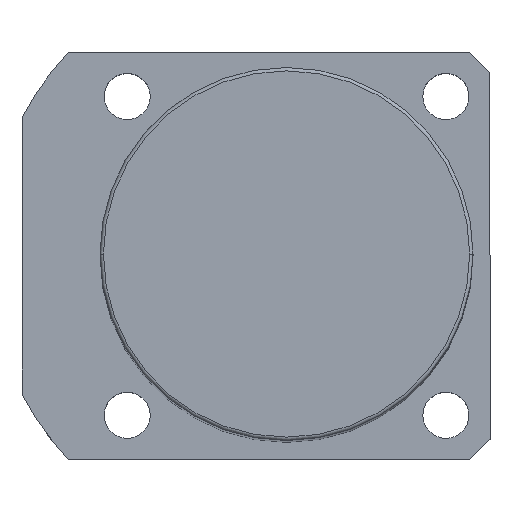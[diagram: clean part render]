
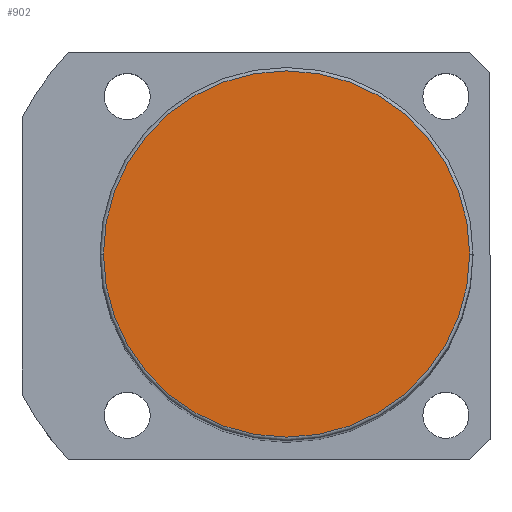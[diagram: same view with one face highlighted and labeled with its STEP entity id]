
A CAD part, top view. The second image highlights one B-rep face of the part: STEP entity #902.
In plain terms, the highlighted planar face has unit normal (0, 0, 1).
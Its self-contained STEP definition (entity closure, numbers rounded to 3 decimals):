
#507 = CARTESIAN_POINT ( 'NONE',  ( 0., 0., 166. ) ) ;
#550 = DIRECTION ( 'NONE',  ( 0., 0., 1. ) ) ;
#711 = CARTESIAN_POINT ( 'NONE',  ( 0., 0., 166. ) ) ;
#722 = VERTEX_POINT ( 'NONE', #1396 ) ;
#902 = ADVANCED_FACE ( 'NONE', ( #2912 ), #4880, .T. ) ;
#955 = DIRECTION ( 'NONE',  ( 0., 0., 1. ) ) ;
#959 = EDGE_CURVE ( 'NONE', #2653, #722, #1478, .T. ) ;
#1116 = DIRECTION ( 'NONE',  ( 1., 0., 0. ) ) ;
#1304 = AXIS2_PLACEMENT_3D ( 'NONE', #2676, #955, #2098 ) ;
#1396 = CARTESIAN_POINT ( 'NONE',  ( -27., 0., 166. ) ) ;
#1478 = CIRCLE ( 'NONE', #1304, 27. ) ;
#1550 = AXIS2_PLACEMENT_3D ( 'NONE', #711, #3482, #1116 ) ;
#1755 = EDGE_LOOP ( 'NONE', ( #1922, #3178 ) ) ;
#1922 = ORIENTED_EDGE ( 'NONE', *, *, #959, .T. ) ;
#2098 = DIRECTION ( 'NONE',  ( 1., 0., 0. ) ) ;
#2653 = VERTEX_POINT ( 'NONE', #3540 ) ;
#2676 = CARTESIAN_POINT ( 'NONE',  ( 0., 0., 166. ) ) ;
#2912 = FACE_OUTER_BOUND ( 'NONE', #1755, .T. ) ;
#2994 = EDGE_CURVE ( 'NONE', #722, #2653, #3661, .T. ) ;
#3178 = ORIENTED_EDGE ( 'NONE', *, *, #2994, .T. ) ;
#3482 = DIRECTION ( 'NONE',  ( 0., 0., 1. ) ) ;
#3540 = CARTESIAN_POINT ( 'NONE',  ( 27., 0., 166. ) ) ;
#3661 = CIRCLE ( 'NONE', #1550, 27. ) ;
#4861 = DIRECTION ( 'NONE',  ( 1., 0., 0. ) ) ;
#4880 = PLANE ( 'NONE',  #5095 ) ;
#5095 = AXIS2_PLACEMENT_3D ( 'NONE', #507, #550, #4861 ) ;
